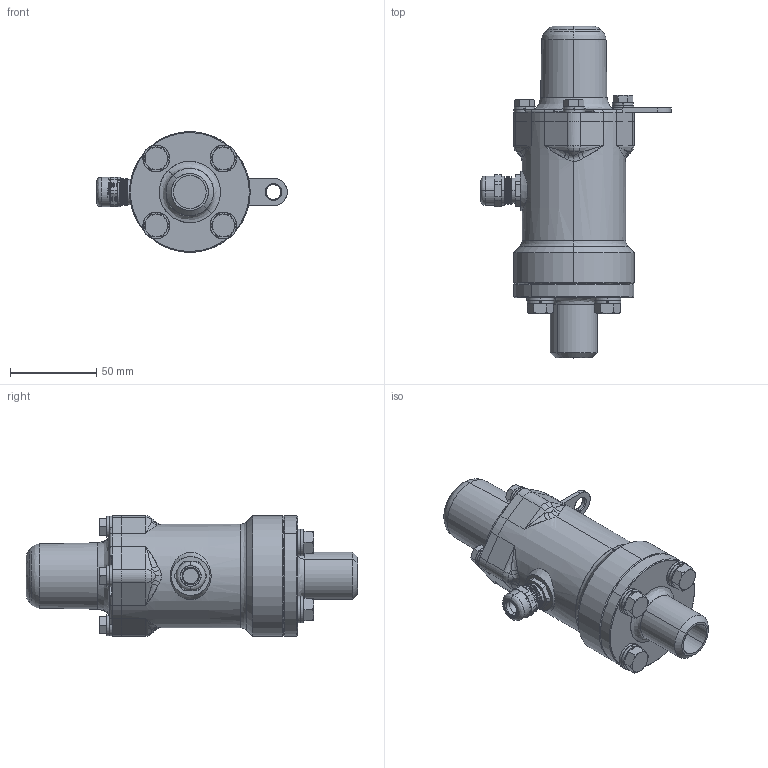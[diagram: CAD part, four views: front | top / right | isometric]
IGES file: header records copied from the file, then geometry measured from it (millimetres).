
Start section: SolidWorks IGES file using analytic representation for surfaces
Global section: file name: V:\WORK\08133\HP 悺朄恾\EK\EK3100\IGS_STEP僼傽僀儖\test_G16000B-000_defeature.IGS; native system: SolidWorks 2018; preprocessor: SolidWorks 2018; author: n-udagawa; date: 230222.145529; units: millimetre
Bounding box: 110.5 x 192.5 x 70 mm (x, y, z)
Surface area: 46535 mm2 (no closed solid volume)
Topology: 0 solids, 0 shells, 724 faces, 11031 edges, 12488 vertices
Faces by surface type: revolution 454, bspline 270
